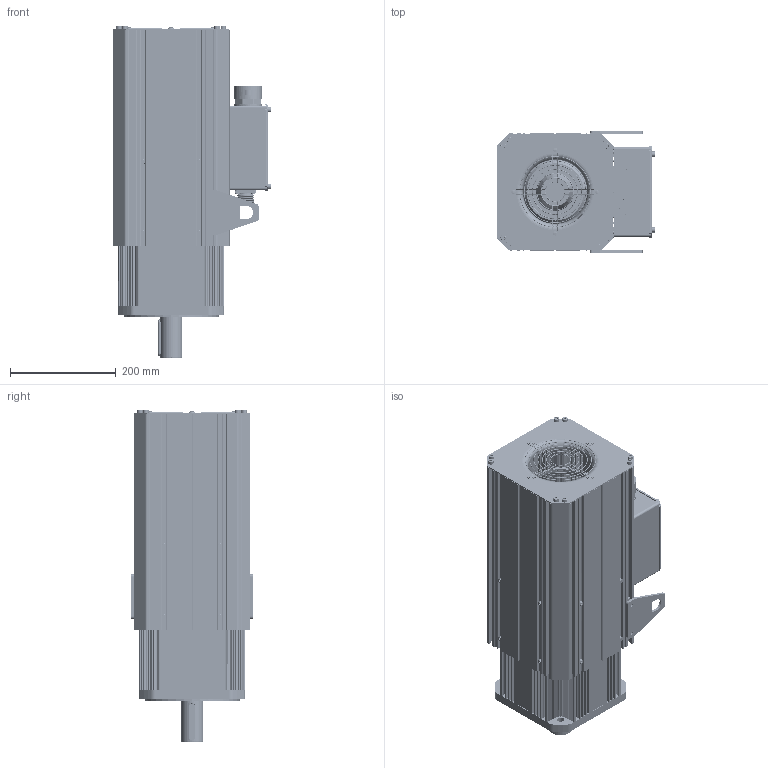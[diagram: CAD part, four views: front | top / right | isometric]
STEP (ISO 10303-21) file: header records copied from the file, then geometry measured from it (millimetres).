
FILE_DESCRIPTION((''),'2;1');
FILE_NAME('SV-MH20-011B-X-XAX-1000__ASM','2019-12-11T',('Administrator'),(''),'PRO/ENGINEER BY PARAMETRIC TECHNOLOGY CORPORATION, 2010280','PRO/ENGINEER BY PARAMETRIC TECHNOLOGY CORPORATION, 2010280','');
FILE_SCHEMA(('CONFIG_CONTROL_DESIGN'));
Products named in the file (63): QDG_10600-00001_1; ZZ_12400-02003_13KW_1; ZC_30400-00001_1; ZC_30400-01002_1; ZCZDQ_11200-00001_1; ZZZJ_80500-02003_13KW_ASM_2_ASM; O-RING_50000-01002_1; M6X35_1; ZCYG_10900-00001_1; JK_10200-45046_13KW_3; DZZJ_80200-02003_13KW_ASM_2_ASM; MANIFOLD_SOLID_BREP_53195; MANIFOLD_SOLID_BREP_62026; MANIFOLD_SOLID_BREP_70341; MANIFOLD_SOLID_BREP_78656; FDB_12900-61062_13KW_4_ASM; DEGDT_11500-02003_1; DE_11300-00001_1; O-RING_50000-02003_1; YXHQ_20300-00001_1; O-RING_50000-03004_1; JXHT_41000-09010_1; JXHG_41000-00001_1; JXHGDK_11600-04005_1; M6X10_1; XJD_50800-11012_1; AD13_1_1; AD42P5_3_1; MFD_YD28-15P_1; HKXZ_YD28-15P_40100-00001_1; PDLD_4X12_1; JXHZJ_81100-00002_ASM_1_ASM; M5X25_1; HDG_21200-00001_1; M8X30_1; HGB_21600-00001_1; M4X10_1; MANIFOLD_SOLID_BREP_152696; MANIFOLD_SOLID_BREP_153092; FJ_40000-03004_1_ASM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
Assembly tree (137 placements, depth 5):
  SV-MH20-011B-X-XAX-1000__ASM
    SV-MH20-011B-X-XAX-1000_ASM_2_ASM
      QDG_10600-00001_1
      ZZZJ_80500-02003_13KW_ASM_2_ASM
        ZZ_12400-02003_13KW_1
        ZC_30400-00001_1
        ZC_30400-01002_1
        ZCZDQ_11200-00001_1
      O-RING_50000-01002_1
      M6X35_1  x4
      ZCYG_10900-00001_1
      DZZJ_80200-02003_13KW_ASM_2_ASM
        JK_10200-45046_13KW_3
      FDB_12900-61062_13KW_4_ASM
        MANIFOLD_SOLID_BREP_53195
        MANIFOLD_SOLID_BREP_62026
        MANIFOLD_SOLID_BREP_70341
        MANIFOLD_SOLID_BREP_78656
      DEGDT_11500-02003_1  x2
      DE_11300-00001_1  x2
      O-RING_50000-02003_1
      YXHQ_20300-00001_1
      O-RING_50000-03004_1
      JXHZJ_81100-00002_ASM_1_ASM
        JXHT_41000-09010_1
        JXHG_41000-00001_1
        JXHGDK_11600-04005_1  x4
        M6X10_1  x8
        XJD_50800-11012_1
        AD13_1_1
        AD42P5_3_1
        MFD_YD28-15P_1
        HKXZ_YD28-15P_40100-00001_1
        PDLD_4X12_1  x4
      M5X25_1  x16
      HDG_21200-00001_1
      M8X30_1  x16
      HGB_21600-00001_1
      M4X10_1  x10
      FJ_40000-03004_1_ASM
        MANIFOLD_SOLID_BREP_152696
        MANIFOLD_SOLID_BREP_153092
      M4X12_1  x4
      FJFHBZZ_ASM_1_ASM
        FJFHB_11100-02003_1
        FHW_30500-00001_1_ASM
          MANIFOLD_SOLID_BREP_155420
          MANIFOLD_SOLID_BREP_155526
          MANIFOLD_SOLID_BREP_155632
          MANIFOLD_SOLID_BREP_155922
          MANIFOLD_SOLID_BREP_156212
          MANIFOLD_SOLID_BREP_156502
          MANIFOLD_SOLID_BREP_156792
          MANIFOLD_SOLID_BREP_156898
          MANIFOLD_SOLID_BREP_157004
          MANIFOLD_SOLID_BREP_157110
          MANIFOLD_SOLID_BREP_157216
        PDQ_4_1  x4
        MD_4_1  x4
      M6X10_1  x8
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Bounding box: 300.6 x 231.5 x 629 mm (x, y, z)
Volume: 8213536.1 mm3; surface area: 3041848 mm2
Topology: 129 solids, 129 shells, 6056 faces, 17709 edges, 12108 vertices
Faces by surface type: plane 2944, cylinder 2351, cone 372, torus 287, bspline 84, sphere 18
Entity records: 176426 total; most frequent: CARTESIAN_POINT 43825, ORIENTED_EDGE 28534, DIRECTION 27385, EDGE_CURVE 14267, AXIS2_PLACEMENT_3D 9868, VERTEX_POINT 9857, VECTOR 7649, LINE 7649
